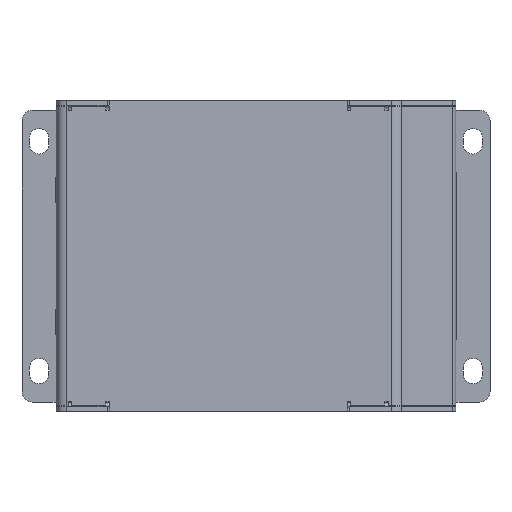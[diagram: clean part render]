
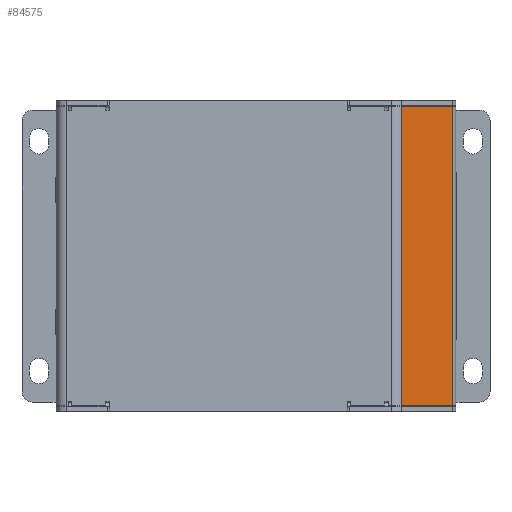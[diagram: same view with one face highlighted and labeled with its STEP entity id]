
A CAD part, top view. The second image highlights one B-rep face of the part: STEP entity #84575.
In plain terms, the highlighted planar face has unit normal (0.731, 0, 0.682).
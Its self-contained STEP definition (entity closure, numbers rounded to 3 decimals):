
#2499 = FACE_OUTER_BOUND ( 'NONE', #78443, .T. ) ;
#11293 = ORIENTED_EDGE ( 'NONE', *, *, #21158, .T. ) ;
#15137 = LINE ( 'NONE', #85229, #92233 ) ;
#15364 = ORIENTED_EDGE ( 'NONE', *, *, #43680, .T. ) ;
#15684 = DIRECTION ( 'NONE',  ( 0., -1., 0. ) ) ;
#21158 = EDGE_CURVE ( 'NONE', #33774, #99524, #107753, .T. ) ;
#25482 = EDGE_CURVE ( 'NONE', #107883, #71098, #95522, .T. ) ;
#26162 = CARTESIAN_POINT ( 'NONE',  ( 34.088, -35.2, 37.846 ) ) ;
#33774 = VERTEX_POINT ( 'NONE', #57695 ) ;
#37687 = PLANE ( 'NONE',  #84966 ) ;
#40677 = VECTOR ( 'NONE', #62666, 1000. ) ;
#42864 = EDGE_CURVE ( 'NONE', #99524, #107883, #15137, .T. ) ;
#43680 = EDGE_CURVE ( 'NONE', #71098, #33774, #71920, .T. ) ;
#52210 = CARTESIAN_POINT ( 'NONE',  ( 34.088, 35.2, 37.846 ) ) ;
#57695 = CARTESIAN_POINT ( 'NONE',  ( 46.194, -35.2, 24.864 ) ) ;
#62666 = DIRECTION ( 'NONE',  ( 0.682, 0., -0.731 ) ) ;
#66295 = ORIENTED_EDGE ( 'NONE', *, *, #25482, .T. ) ;
#67040 = VECTOR ( 'NONE', #107174, 1000. ) ;
#71098 = VERTEX_POINT ( 'NONE', #102144 ) ;
#71920 = LINE ( 'NONE', #26162, #40677 ) ;
#72056 = CARTESIAN_POINT ( 'NONE',  ( 46.194, -35.2, 24.864 ) ) ;
#75926 = DIRECTION ( 'NONE',  ( 0.731, 0., 0.682 ) ) ;
#76480 = CARTESIAN_POINT ( 'NONE',  ( 33.199, -35.2, 38.8 ) ) ;
#78443 = EDGE_LOOP ( 'NONE', ( #79516, #66295, #15364, #11293 ) ) ;
#79516 = ORIENTED_EDGE ( 'NONE', *, *, #42864, .T. ) ;
#84575 = ADVANCED_FACE ( 'NONE', ( #2499 ), #37687, .T. ) ;
#84966 = AXIS2_PLACEMENT_3D ( 'NONE', #76480, #75926, #93159 ) ;
#85229 = CARTESIAN_POINT ( 'NONE',  ( 46.194, 35.2, 24.864 ) ) ;
#92233 = VECTOR ( 'NONE', #112284, 1000. ) ;
#93159 = DIRECTION ( 'NONE',  ( 0., -1., 0. ) ) ;
#94633 = CARTESIAN_POINT ( 'NONE',  ( 34.088, 35.2, 37.846 ) ) ;
#95522 = LINE ( 'NONE', #52210, #100227 ) ;
#99524 = VERTEX_POINT ( 'NONE', #110282 ) ;
#100227 = VECTOR ( 'NONE', #15684, 1000. ) ;
#102144 = CARTESIAN_POINT ( 'NONE',  ( 34.088, -35.2, 37.846 ) ) ;
#107174 = DIRECTION ( 'NONE',  ( 0., 1., 0. ) ) ;
#107753 = LINE ( 'NONE', #72056, #67040 ) ;
#107883 = VERTEX_POINT ( 'NONE', #94633 ) ;
#110282 = CARTESIAN_POINT ( 'NONE',  ( 46.194, 35.2, 24.864 ) ) ;
#112284 = DIRECTION ( 'NONE',  ( -0.682, 0., 0.731 ) ) ;
